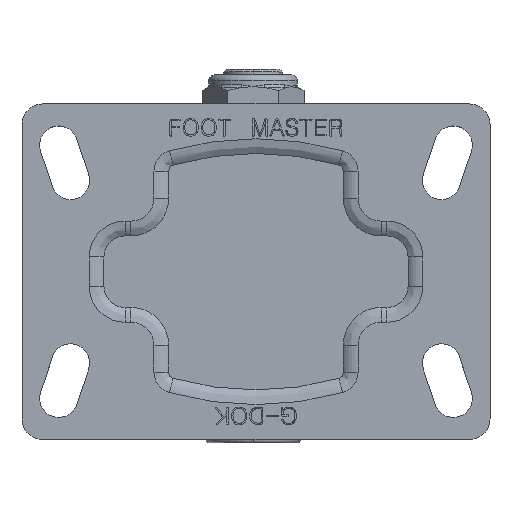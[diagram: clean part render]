
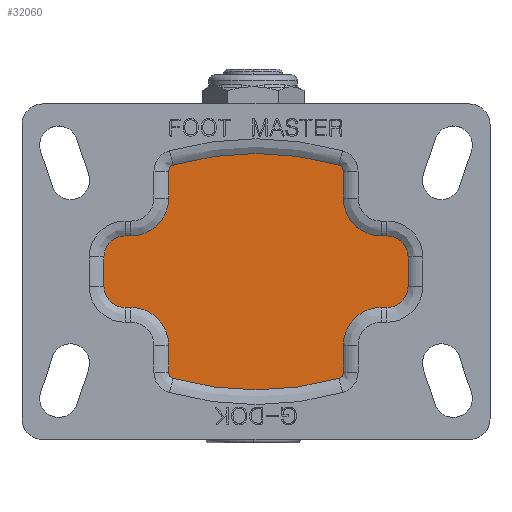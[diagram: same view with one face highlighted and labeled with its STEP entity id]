
A CAD part, top view. The second image highlights one B-rep face of the part: STEP entity #32060.
In plain terms, the highlighted planar face has unit normal (0, 0, 1).
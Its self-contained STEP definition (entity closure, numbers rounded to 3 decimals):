
#30372=CARTESIAN_POINT('',(-51.662,-5.,2.5));
#30373=VERTEX_POINT('',#30372);
#30390=CARTESIAN_POINT('',(-44.5,-12.162,2.5));
#30391=VERTEX_POINT('',#30390);
#30399=CARTESIAN_POINT('',(-44.5,-5.,2.5));
#30400=DIRECTION('',(0.0,0.0,1.0));
#30401=DIRECTION('',(1.0,0.0,0.0));
#30402=AXIS2_PLACEMENT_3D('',#30399,#30400,#30401);
#30403=CIRCLE('',#30402,7.162);
#30404=EDGE_CURVE('',#30373,#30391,#30403,.T.);
#30423=CARTESIAN_POINT('',(-42.5,-12.162,2.5));
#30424=VERTEX_POINT('',#30423);
#30432=CARTESIAN_POINT('',(-44.5,-12.162,2.5));
#30433=DIRECTION('',(1.0,0.0,0.0));
#30434=VECTOR('',#30433,2.);
#30435=LINE('',#30432,#30434);
#30436=EDGE_CURVE('',#30391,#30424,#30435,.T.);
#30486=CARTESIAN_POINT('',(-29.662,-25.,2.5));
#30487=VERTEX_POINT('',#30486);
#30495=CARTESIAN_POINT('',(-42.5,-25.,2.5));
#30496=DIRECTION('',(0.0,0.0,-1.0));
#30497=DIRECTION('',(1.0,0.0,0.0));
#30498=AXIS2_PLACEMENT_3D('',#30495,#30496,#30497);
#30499=CIRCLE('',#30498,12.838);
#30500=EDGE_CURVE('',#30424,#30487,#30499,.T.);
#30519=CARTESIAN_POINT('',(-29.662,-34.164,2.5));
#30520=VERTEX_POINT('',#30519);
#30528=CARTESIAN_POINT('',(-29.662,-25.,2.5));
#30529=DIRECTION('',(0.0,-1.0,0.0));
#30530=VECTOR('',#30529,9.164);
#30531=LINE('',#30528,#30530);
#30532=EDGE_CURVE('',#30487,#30520,#30531,.T.);
#30564=CARTESIAN_POINT('',(-28.092,-36.244,2.5));
#30565=VERTEX_POINT('',#30564);
#30573=CARTESIAN_POINT('',(-27.5,-34.164,2.5));
#30574=DIRECTION('',(0.0,0.0,1.0));
#30575=DIRECTION('',(1.0,0.0,0.0));
#30576=AXIS2_PLACEMENT_3D('',#30573,#30574,#30575);
#30577=CIRCLE('',#30576,2.162);
#30578=EDGE_CURVE('',#30520,#30565,#30577,.T.);
#30610=CARTESIAN_POINT('',(28.092,-36.244,2.5));
#30611=VERTEX_POINT('',#30610);
#30619=CARTESIAN_POINT('',(0.,62.5,2.5));
#30620=DIRECTION('',(0.0,0.0,1.0));
#30621=DIRECTION('',(1.0,0.0,0.0));
#30622=AXIS2_PLACEMENT_3D('',#30619,#30620,#30621);
#30623=CIRCLE('',#30622,102.662);
#30624=EDGE_CURVE('',#30565,#30611,#30623,.T.);
#30656=CARTESIAN_POINT('',(29.662,-34.164,2.5));
#30657=VERTEX_POINT('',#30656);
#30665=CARTESIAN_POINT('',(27.5,-34.164,2.5));
#30666=DIRECTION('',(0.0,0.0,1.0));
#30667=DIRECTION('',(1.0,0.0,0.0));
#30668=AXIS2_PLACEMENT_3D('',#30665,#30666,#30667);
#30669=CIRCLE('',#30668,2.162);
#30670=EDGE_CURVE('',#30611,#30657,#30669,.T.);
#30689=CARTESIAN_POINT('',(29.662,-25.,2.5));
#30690=VERTEX_POINT('',#30689);
#30698=CARTESIAN_POINT('',(29.662,-34.164,2.5));
#30699=DIRECTION('',(0.0,1.0,0.0));
#30700=VECTOR('',#30699,9.164);
#30701=LINE('',#30698,#30700);
#30702=EDGE_CURVE('',#30657,#30690,#30701,.T.);
#30752=CARTESIAN_POINT('',(42.5,-12.162,2.5));
#30753=VERTEX_POINT('',#30752);
#30761=CARTESIAN_POINT('',(42.5,-25.,2.5));
#30762=DIRECTION('',(0.0,0.0,-1.0));
#30763=DIRECTION('',(1.0,0.0,0.0));
#30764=AXIS2_PLACEMENT_3D('',#30761,#30762,#30763);
#30765=CIRCLE('',#30764,12.838);
#30766=EDGE_CURVE('',#30690,#30753,#30765,.T.);
#30785=CARTESIAN_POINT('',(44.5,-12.162,2.5));
#30786=VERTEX_POINT('',#30785);
#30794=CARTESIAN_POINT('',(42.5,-12.162,2.5));
#30795=DIRECTION('',(1.0,0.0,0.0));
#30796=VECTOR('',#30795,2.);
#30797=LINE('',#30794,#30796);
#30798=EDGE_CURVE('',#30753,#30786,#30797,.T.);
#30848=CARTESIAN_POINT('',(51.662,-5.,2.5));
#30849=VERTEX_POINT('',#30848);
#30857=CARTESIAN_POINT('',(44.5,-5.,2.5));
#30858=DIRECTION('',(0.0,0.0,1.0));
#30859=DIRECTION('',(1.0,0.0,0.0));
#30860=AXIS2_PLACEMENT_3D('',#30857,#30858,#30859);
#30861=CIRCLE('',#30860,7.162);
#30862=EDGE_CURVE('',#30786,#30849,#30861,.T.);
#30881=CARTESIAN_POINT('',(51.662,5.,2.5));
#30882=VERTEX_POINT('',#30881);
#30890=CARTESIAN_POINT('',(51.662,-5.,2.5));
#30891=DIRECTION('',(0.0,1.0,0.0));
#30892=VECTOR('',#30891,10.);
#30893=LINE('',#30890,#30892);
#30894=EDGE_CURVE('',#30849,#30882,#30893,.T.);
#30944=CARTESIAN_POINT('',(44.5,12.162,2.5));
#30945=VERTEX_POINT('',#30944);
#30953=CARTESIAN_POINT('',(44.5,5.,2.5));
#30954=DIRECTION('',(0.0,0.0,1.0));
#30955=DIRECTION('',(1.0,0.0,0.0));
#30956=AXIS2_PLACEMENT_3D('',#30953,#30954,#30955);
#30957=CIRCLE('',#30956,7.162);
#30958=EDGE_CURVE('',#30882,#30945,#30957,.T.);
#30977=CARTESIAN_POINT('',(42.5,12.162,2.5));
#30978=VERTEX_POINT('',#30977);
#30986=CARTESIAN_POINT('',(44.5,12.162,2.5));
#30987=DIRECTION('',(-1.0,0.0,0.0));
#30988=VECTOR('',#30987,2.);
#30989=LINE('',#30986,#30988);
#30990=EDGE_CURVE('',#30945,#30978,#30989,.T.);
#31040=CARTESIAN_POINT('',(29.662,25.,2.5));
#31041=VERTEX_POINT('',#31040);
#31049=CARTESIAN_POINT('',(42.5,25.,2.5));
#31050=DIRECTION('',(0.0,0.0,-1.0));
#31051=DIRECTION('',(1.0,0.0,0.0));
#31052=AXIS2_PLACEMENT_3D('',#31049,#31050,#31051);
#31053=CIRCLE('',#31052,12.838);
#31054=EDGE_CURVE('',#30978,#31041,#31053,.T.);
#31073=CARTESIAN_POINT('',(29.662,34.164,2.5));
#31074=VERTEX_POINT('',#31073);
#31082=CARTESIAN_POINT('',(29.662,25.,2.5));
#31083=DIRECTION('',(0.0,1.0,0.0));
#31084=VECTOR('',#31083,9.164);
#31085=LINE('',#31082,#31084);
#31086=EDGE_CURVE('',#31041,#31074,#31085,.T.);
#31118=CARTESIAN_POINT('',(28.092,36.244,2.5));
#31119=VERTEX_POINT('',#31118);
#31127=CARTESIAN_POINT('',(27.5,34.164,2.5));
#31128=DIRECTION('',(0.0,0.0,1.0));
#31129=DIRECTION('',(1.0,0.0,0.0));
#31130=AXIS2_PLACEMENT_3D('',#31127,#31128,#31129);
#31131=CIRCLE('',#31130,2.162);
#31132=EDGE_CURVE('',#31074,#31119,#31131,.T.);
#31164=CARTESIAN_POINT('',(-28.092,36.244,2.5));
#31165=VERTEX_POINT('',#31164);
#31173=CARTESIAN_POINT('',(0.,-62.5,2.5));
#31174=DIRECTION('',(0.0,0.0,1.0));
#31175=DIRECTION('',(1.0,0.0,0.0));
#31176=AXIS2_PLACEMENT_3D('',#31173,#31174,#31175);
#31177=CIRCLE('',#31176,102.662);
#31178=EDGE_CURVE('',#31119,#31165,#31177,.T.);
#31210=CARTESIAN_POINT('',(-29.662,34.164,2.5));
#31211=VERTEX_POINT('',#31210);
#31219=CARTESIAN_POINT('',(-27.5,34.164,2.5));
#31220=DIRECTION('',(0.0,0.0,1.0));
#31221=DIRECTION('',(1.0,0.0,0.0));
#31222=AXIS2_PLACEMENT_3D('',#31219,#31220,#31221);
#31223=CIRCLE('',#31222,2.162);
#31224=EDGE_CURVE('',#31165,#31211,#31223,.T.);
#31243=CARTESIAN_POINT('',(-29.662,25.,2.5));
#31244=VERTEX_POINT('',#31243);
#31252=CARTESIAN_POINT('',(-29.662,34.164,2.5));
#31253=DIRECTION('',(0.0,-1.0,0.0));
#31254=VECTOR('',#31253,9.164);
#31255=LINE('',#31252,#31254);
#31256=EDGE_CURVE('',#31211,#31244,#31255,.T.);
#31306=CARTESIAN_POINT('',(-42.5,12.162,2.5));
#31307=VERTEX_POINT('',#31306);
#31315=CARTESIAN_POINT('',(-42.5,25.,2.5));
#31316=DIRECTION('',(0.0,0.0,-1.0));
#31317=DIRECTION('',(1.0,0.0,0.0));
#31318=AXIS2_PLACEMENT_3D('',#31315,#31316,#31317);
#31319=CIRCLE('',#31318,12.838);
#31320=EDGE_CURVE('',#31244,#31307,#31319,.T.);
#31339=CARTESIAN_POINT('',(-44.5,12.162,2.5));
#31340=VERTEX_POINT('',#31339);
#31348=CARTESIAN_POINT('',(-42.5,12.162,2.5));
#31349=DIRECTION('',(-1.0,0.0,0.0));
#31350=VECTOR('',#31349,2.);
#31351=LINE('',#31348,#31350);
#31352=EDGE_CURVE('',#31307,#31340,#31351,.T.);
#31402=CARTESIAN_POINT('',(-51.662,5.,2.5));
#31403=VERTEX_POINT('',#31402);
#31411=CARTESIAN_POINT('',(-44.5,5.,2.5));
#31412=DIRECTION('',(0.0,0.0,1.0));
#31413=DIRECTION('',(1.0,0.0,0.0));
#31414=AXIS2_PLACEMENT_3D('',#31411,#31412,#31413);
#31415=CIRCLE('',#31414,7.162);
#31416=EDGE_CURVE('',#31340,#31403,#31415,.T.);
#31434=CARTESIAN_POINT('',(-51.662,5.,2.5));
#31435=DIRECTION('',(0.0,-1.0,0.0));
#31436=VECTOR('',#31435,10.0);
#31437=LINE('',#31434,#31436);
#31438=EDGE_CURVE('',#31403,#30373,#31437,.T.);
#32029=CARTESIAN_POINT('',(0.,0.,2.5));
#32030=DIRECTION('',(0.0,0.0,1.0));
#32031=DIRECTION('',(1.0,0.0,0.0));
#32032=AXIS2_PLACEMENT_3D('',#32029,#32030,#32031);
#32033=PLANE('',#32032);
#32034=ORIENTED_EDGE('',*,*,#30578,.T.);
#32035=ORIENTED_EDGE('',*,*,#30624,.T.);
#32036=ORIENTED_EDGE('',*,*,#30670,.T.);
#32037=ORIENTED_EDGE('',*,*,#30702,.T.);
#32038=ORIENTED_EDGE('',*,*,#30766,.T.);
#32039=ORIENTED_EDGE('',*,*,#30798,.T.);
#32040=ORIENTED_EDGE('',*,*,#30862,.T.);
#32041=ORIENTED_EDGE('',*,*,#30894,.T.);
#32042=ORIENTED_EDGE('',*,*,#30958,.T.);
#32043=ORIENTED_EDGE('',*,*,#30990,.T.);
#32044=ORIENTED_EDGE('',*,*,#31054,.T.);
#32045=ORIENTED_EDGE('',*,*,#31086,.T.);
#32046=ORIENTED_EDGE('',*,*,#31132,.T.);
#32047=ORIENTED_EDGE('',*,*,#31178,.T.);
#32048=ORIENTED_EDGE('',*,*,#31224,.T.);
#32049=ORIENTED_EDGE('',*,*,#31256,.T.);
#32050=ORIENTED_EDGE('',*,*,#31320,.T.);
#32051=ORIENTED_EDGE('',*,*,#31352,.T.);
#32052=ORIENTED_EDGE('',*,*,#31416,.T.);
#32053=ORIENTED_EDGE('',*,*,#31438,.T.);
#32054=ORIENTED_EDGE('',*,*,#30404,.T.);
#32055=ORIENTED_EDGE('',*,*,#30436,.T.);
#32056=ORIENTED_EDGE('',*,*,#30500,.T.);
#32057=ORIENTED_EDGE('',*,*,#30532,.T.);
#32058=EDGE_LOOP('',(#32034,#32035,#32036,#32037,#32038,#32039,#32040,#32041,#32042,#32043,#32044,#32045,#32046,#32047,#32048,#32049,#32050,#32051,#32052,#32053,#32054,#32055,#32056,#32057));
#32059=FACE_OUTER_BOUND('',#32058,.T.);
#32060=ADVANCED_FACE('',(#32059),#32033,.T.);
